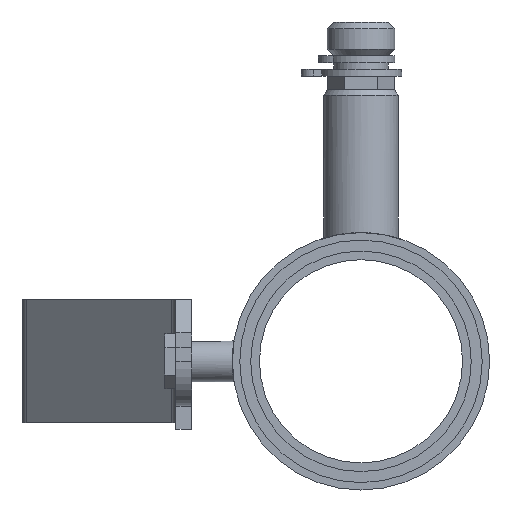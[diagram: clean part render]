
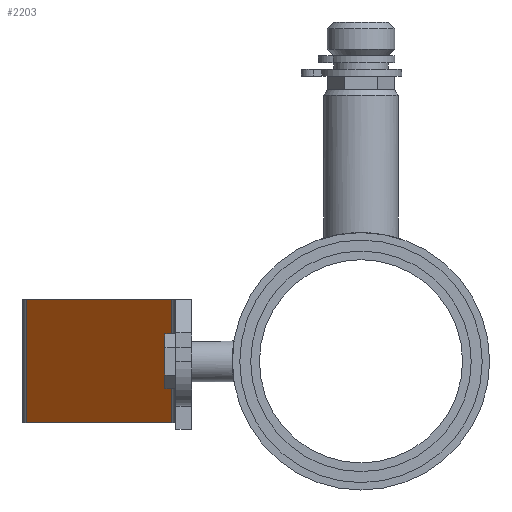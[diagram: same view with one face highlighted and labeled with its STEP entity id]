
A CAD part, left-side view. The second image highlights one B-rep face of the part: STEP entity #2203.
In plain terms, the highlighted planar face has unit normal (-0.707, 0.707, 0).
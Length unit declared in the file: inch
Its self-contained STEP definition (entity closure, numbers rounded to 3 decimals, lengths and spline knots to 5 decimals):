
#94=PLANE('',#2359);
#177=FACE_OUTER_BOUND('',#298,.T.);
#298=EDGE_LOOP('',(#1528,#1529,#1530,#1531));
#476=LINE('',#3374,#674);
#479=LINE('',#3382,#677);
#481=LINE('',#3388,#679);
#482=LINE('',#3389,#680);
#674=VECTOR('',#2681,0.3937);
#677=VECTOR('',#2688,0.3937);
#679=VECTOR('',#2694,0.3937);
#680=VECTOR('',#2695,0.3937);
#977=VERTEX_POINT('',#3371);
#978=VERTEX_POINT('',#3373);
#981=VERTEX_POINT('',#3381);
#983=VERTEX_POINT('',#3387);
#1187=EDGE_CURVE('',#977,#978,#476,.T.);
#1191=EDGE_CURVE('',#978,#981,#479,.T.);
#1194=EDGE_CURVE('',#983,#977,#481,.T.);
#1195=EDGE_CURVE('',#981,#983,#482,.T.);
#1528=ORIENTED_EDGE('',*,*,#1191,.F.);
#1529=ORIENTED_EDGE('',*,*,#1187,.F.);
#1530=ORIENTED_EDGE('',*,*,#1194,.F.);
#1531=ORIENTED_EDGE('',*,*,#1195,.F.);
#2203=ADVANCED_FACE('',(#177),#94,.T.);
#2359=AXIS2_PLACEMENT_3D('',#3386,#2692,#2693);
#2681=DIRECTION('',(-0.707,-0.707,0.));
#2688=DIRECTION('',(0.,0.,-1.));
#2692=DIRECTION('center_axis',(-0.707,0.707,0.));
#2693=DIRECTION('ref_axis',(-0.707,-0.707,0.));
#2694=DIRECTION('',(0.,0.,1.));
#2695=DIRECTION('',(0.707,0.707,0.));
#3371=CARTESIAN_POINT('',(2.23271,2.47071,0.455));
#3373=CARTESIAN_POINT('',(1.15929,1.39729,0.455));
#3374=CARTESIAN_POINT('',(2.23271,2.47071,0.455));
#3381=CARTESIAN_POINT('',(1.15929,1.39729,-0.455));
#3382=CARTESIAN_POINT('',(1.15929,1.39729,0.01382));
#3386=CARTESIAN_POINT('Origin',(2.23271,2.47071,0.));
#3387=CARTESIAN_POINT('',(2.23271,2.47071,-0.455));
#3388=CARTESIAN_POINT('',(2.23271,2.47071,0.));
#3389=CARTESIAN_POINT('',(2.23271,2.47071,-0.455));
